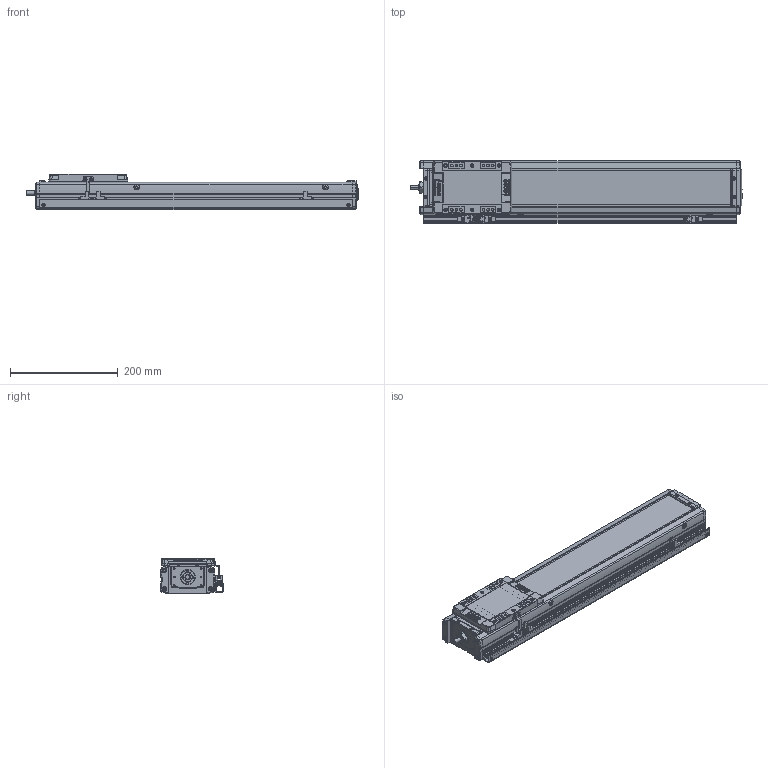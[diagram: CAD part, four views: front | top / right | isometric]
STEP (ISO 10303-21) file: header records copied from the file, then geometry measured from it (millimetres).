
FILE_DESCRIPTION(('STEP AP214'),'1');
FILE_NAME('Z:/Web/3D/SAN100/SAN100 양산용 (STEP)/SAN100ㅁㅁ-400+3SR.stp','2013-04-25T07:17:35',(' '),(' '),'Spatial InterOp 3D',' ',' ');
FILE_SCHEMA(('automotive_design'));
Length unit declared in the file: millimetre
Products named in the file (52): EE-SX674; SBK-SX674-352; 스크루 : Round - M3.0 x 6.0; M3.0 x 6.0; SRL-16x17-380L; SGD-SAN100; SUS COVER; SFX-SAN100; RRCV-SAN100; 스크루 : Round - M4.0 x 10.0; FRBL-SAN100; SLBL-SAN100; SLCV-SAN100; 스크루 : Countersunk - M3.0 x 6.0; BASE; 스크루 : Round - M5.0 x 6.0; 너트 : Square - M10.0 x 220.7419; RR1500-000L; FRCV-SAN100
Bounding box: 616 x 116 x 66 mm (x, y, z)
Volume: 1742588.7 mm3; surface area: 506297.8 mm2
Topology: 52 solids, 53 shells, 2451 faces, 6378 edges, 4127 vertices
Faces by surface type: plane 1322, cylinder 813, cone 214, sphere 64, torus 26, bspline 12
Entity records: 96609 total; most frequent: CARTESIAN_POINT 14458, DIRECTION 13389, ORIENTED_EDGE 12592, EDGE_CURVE 6296, AXIS2_PLACEMENT_3D 4727, VERTEX_POINT 4127, LINE 3935, VECTOR 3935
